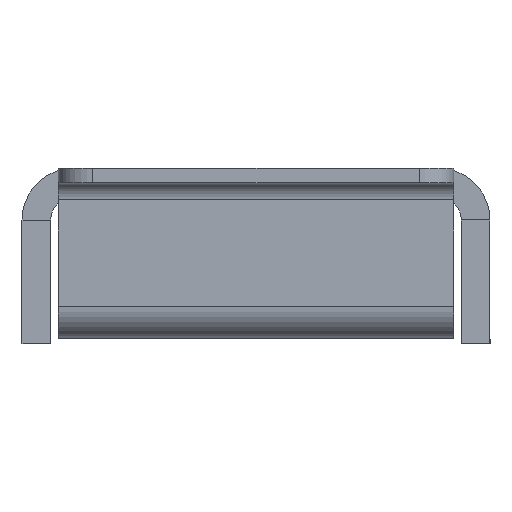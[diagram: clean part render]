
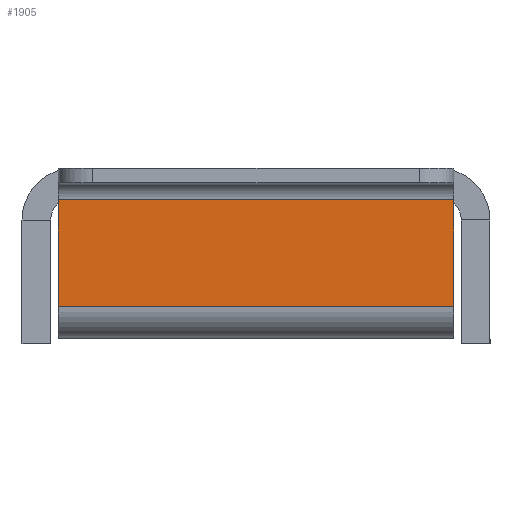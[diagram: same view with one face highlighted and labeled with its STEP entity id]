
A CAD part, left-side view. The second image highlights one B-rep face of the part: STEP entity #1905.
In plain terms, the highlighted planar face has unit normal (-1, 0, 0).
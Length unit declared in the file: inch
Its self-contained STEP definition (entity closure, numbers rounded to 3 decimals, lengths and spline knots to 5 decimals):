
#10 = LINE ( 'NONE', #843, #1369 ) ;
#98 = DIRECTION ( 'NONE',  ( 0., 0., 1. ) ) ;
#165 = VECTOR ( 'NONE', #1670, 39.37008 ) ;
#209 = VERTEX_POINT ( 'NONE', #1125 ) ;
#239 = LINE ( 'NONE', #351, #766 ) ;
#266 = DIRECTION ( 'NONE',  ( 0., 0., -1. ) ) ;
#351 = CARTESIAN_POINT ( 'NONE',  ( -1.03438, 0.6875, 0. ) ) ;
#355 = VERTEX_POINT ( 'NONE', #1618 ) ;
#406 = CARTESIAN_POINT ( 'NONE',  ( -1.03438, 0.6875, 0.06 ) ) ;
#539 = DIRECTION ( 'NONE',  ( 1., 0., 0. ) ) ;
#549 = CARTESIAN_POINT ( 'NONE',  ( -1.03438, 0.6875, 0.49 ) ) ;
#569 = ORIENTED_EDGE ( 'NONE', *, *, #792, .T. ) ;
#766 = VECTOR ( 'NONE', #1260, 39.37008 ) ;
#792 = EDGE_CURVE ( 'NONE', #355, #1576, #239, .T. ) ;
#843 = CARTESIAN_POINT ( 'NONE',  ( -1.03438, -0.6875, 0.49 ) ) ;
#942 = VERTEX_POINT ( 'NONE', #1983 ) ;
#954 = ORIENTED_EDGE ( 'NONE', *, *, #1399, .F. ) ;
#1008 = LINE ( 'NONE', #1195, #165 ) ;
#1025 = CARTESIAN_POINT ( 'NONE',  ( -1.03438, 0.6875, 0.06 ) ) ;
#1096 = EDGE_CURVE ( 'NONE', #209, #1576, #1231, .T. ) ;
#1124 = ORIENTED_EDGE ( 'NONE', *, *, #1551, .T. ) ;
#1125 = CARTESIAN_POINT ( 'NONE',  ( -1.03438, -0.6875, 0.06 ) ) ;
#1186 = DIRECTION ( 'NONE',  ( 0., 1., 0. ) ) ;
#1195 = CARTESIAN_POINT ( 'NONE',  ( -1.03438, 0.6875, 0.43 ) ) ;
#1204 = AXIS2_PLACEMENT_3D ( 'NONE', #549, #539, #266 ) ;
#1231 = LINE ( 'NONE', #1025, #1434 ) ;
#1260 = DIRECTION ( 'NONE',  ( 0., 0., -1. ) ) ;
#1331 = PLANE ( 'NONE',  #1204 ) ;
#1363 = ORIENTED_EDGE ( 'NONE', *, *, #1096, .F. ) ;
#1369 = VECTOR ( 'NONE', #98, 39.37008 ) ;
#1399 = EDGE_CURVE ( 'NONE', #355, #942, #1008, .T. ) ;
#1434 = VECTOR ( 'NONE', #1186, 39.37008 ) ;
#1551 = EDGE_CURVE ( 'NONE', #209, #942, #10, .T. ) ;
#1576 = VERTEX_POINT ( 'NONE', #406 ) ;
#1586 = EDGE_LOOP ( 'NONE', ( #954, #569, #1363, #1124 ) ) ;
#1618 = CARTESIAN_POINT ( 'NONE',  ( -1.03438, 0.6875, 0.43 ) ) ;
#1670 = DIRECTION ( 'NONE',  ( 0., -1., 0. ) ) ;
#1730 = FACE_OUTER_BOUND ( 'NONE', #1586, .T. ) ;
#1905 = ADVANCED_FACE ( 'NONE', ( #1730 ), #1331, .F. ) ;
#1983 = CARTESIAN_POINT ( 'NONE',  ( -1.03438, -0.6875, 0.43 ) ) ;
